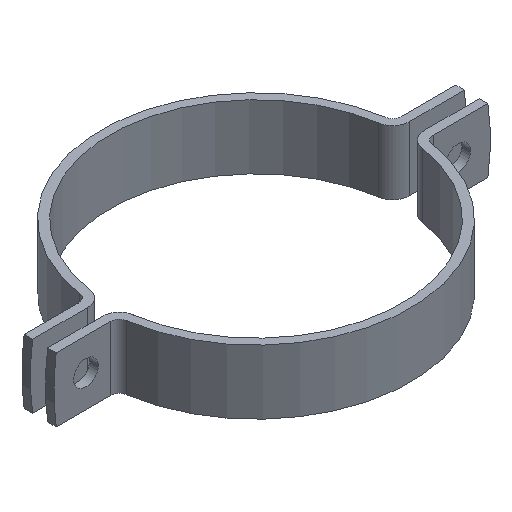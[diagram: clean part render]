
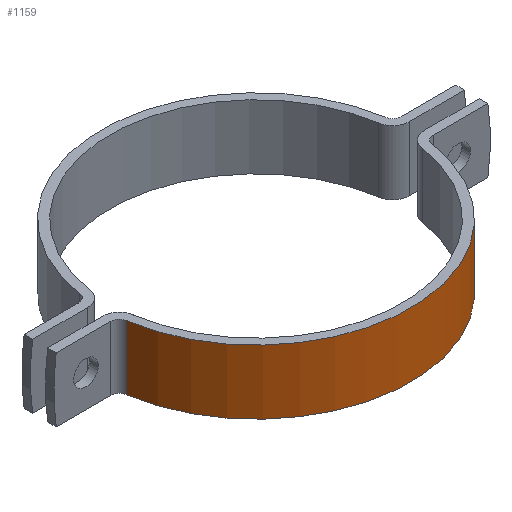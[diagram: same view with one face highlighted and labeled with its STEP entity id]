
A CAD part, isometric view. The second image highlights one B-rep face of the part: STEP entity #1159.
In plain terms, the highlighted cylindrical face has radius 144.5 mm (diameter 289 mm), a partial arc.
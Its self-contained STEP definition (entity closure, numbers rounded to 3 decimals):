
#61 = EDGE_LOOP ( 'NONE', ( #1013, #661, #105, #624 ) ) ;
#105 = ORIENTED_EDGE ( 'NONE', *, *, #817, .T. ) ;
#111 = VERTEX_POINT ( 'NONE', #119 ) ;
#119 = CARTESIAN_POINT ( 'NONE',  ( 142.847, -21.793, 0. ) ) ;
#185 = DIRECTION ( 'NONE',  ( 0., 0., 1. ) ) ;
#235 = EDGE_CURVE ( 'NONE', #423, #111, #470, .T. ) ;
#272 = VERTEX_POINT ( 'NONE', #455 ) ;
#278 = FACE_OUTER_BOUND ( 'NONE', #61, .T. ) ;
#295 = DIRECTION ( 'NONE',  ( 1., 0., 0. ) ) ;
#366 = VECTOR ( 'NONE', #765, 1000. ) ;
#377 = DIRECTION ( 'NONE',  ( 1., 0., 0. ) ) ;
#381 = CARTESIAN_POINT ( 'NONE',  ( 142.847, -21.793, -60. ) ) ;
#423 = VERTEX_POINT ( 'NONE', #381 ) ;
#452 = CARTESIAN_POINT ( 'NONE',  ( -142.847, -21.793, -60. ) ) ;
#455 = CARTESIAN_POINT ( 'NONE',  ( -142.847, -21.793, 0. ) ) ;
#470 = LINE ( 'NONE', #1216, #1092 ) ;
#471 = DIRECTION ( 'NONE',  ( 1., 0., 0. ) ) ;
#477 = CYLINDRICAL_SURFACE ( 'NONE', #1029, 144.5 ) ;
#545 = CIRCLE ( 'NONE', #1185, 144.5 ) ;
#624 = ORIENTED_EDGE ( 'NONE', *, *, #235, .T. ) ;
#632 = CIRCLE ( 'NONE', #1205, 144.5 ) ;
#661 = ORIENTED_EDGE ( 'NONE', *, *, #777, .F. ) ;
#755 = CARTESIAN_POINT ( 'NONE',  ( 0., 0., -60. ) ) ;
#765 = DIRECTION ( 'NONE',  ( 0., 0., 1. ) ) ;
#777 = EDGE_CURVE ( 'NONE', #1177, #272, #1129, .T. ) ;
#817 = EDGE_CURVE ( 'NONE', #1177, #423, #545, .T. ) ;
#867 = DIRECTION ( 'NONE',  ( 0., 0., 1. ) ) ;
#869 = DIRECTION ( 'NONE',  ( 0., 0., 1. ) ) ;
#1013 = ORIENTED_EDGE ( 'NONE', *, *, #1213, .F. ) ;
#1026 = CARTESIAN_POINT ( 'NONE',  ( 0., 0., 0. ) ) ;
#1029 = AXIS2_PLACEMENT_3D ( 'NONE', #755, #869, #471 ) ;
#1092 = VECTOR ( 'NONE', #867, 1000. ) ;
#1129 = LINE ( 'NONE', #1222, #366 ) ;
#1159 = ADVANCED_FACE ( 'NONE', ( #278 ), #477, .T. ) ;
#1160 = CARTESIAN_POINT ( 'NONE',  ( 0., 0., -60. ) ) ;
#1177 = VERTEX_POINT ( 'NONE', #452 ) ;
#1185 = AXIS2_PLACEMENT_3D ( 'NONE', #1160, #185, #295 ) ;
#1205 = AXIS2_PLACEMENT_3D ( 'NONE', #1026, #1229, #377 ) ;
#1213 = EDGE_CURVE ( 'NONE', #272, #111, #632, .T. ) ;
#1216 = CARTESIAN_POINT ( 'NONE',  ( 142.847, -21.793, -60. ) ) ;
#1222 = CARTESIAN_POINT ( 'NONE',  ( -142.847, -21.793, -60. ) ) ;
#1229 = DIRECTION ( 'NONE',  ( 0., 0., 1. ) ) ;
